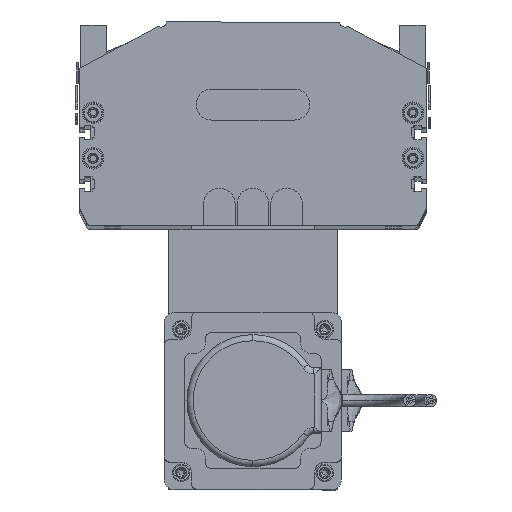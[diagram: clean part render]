
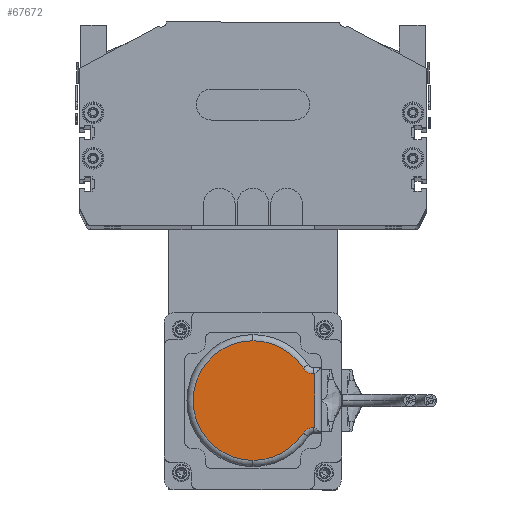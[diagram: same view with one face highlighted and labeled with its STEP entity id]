
A CAD part, top view. The second image highlights one B-rep face of the part: STEP entity #67672.
In plain terms, the highlighted planar face has unit normal (0, 0, 1).
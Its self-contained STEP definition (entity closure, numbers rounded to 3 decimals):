
#4352 = CARTESIAN_POINT ( 'NONE',  ( 62., 33., 26. ) ) ;
#6203 = CARTESIAN_POINT ( 'NONE',  ( 33., 33., 26. ) ) ;
#6204 = CIRCLE ( 'NONE', #6209, 29. ) ;
#6209 = AXIS2_PLACEMENT_3D ( 'NONE', #6203, #6236, #6233 ) ;
#6233 = DIRECTION ( 'NONE',  ( 1., 0., 0. ) ) ;
#6236 = DIRECTION ( 'NONE',  ( 0., 0., 1. ) ) ;
#6386 = AXIS2_PLACEMENT_3D ( 'NONE', #6400, #6399, #6410 ) ;
#6390 = FACE_OUTER_BOUND ( 'NONE', #67448, .T. ) ;
#6399 = DIRECTION ( 'NONE',  ( 0., 0., 1. ) ) ;
#6400 = CARTESIAN_POINT ( 'NONE',  ( 33., 33., 26. ) ) ;
#6410 = DIRECTION ( 'NONE',  ( 1., 0., 0. ) ) ;
#6416 = PLANE ( 'NONE',  #6386 ) ;
#6499 = DIRECTION ( 'NONE',  ( 0., -1., 0. ) ) ;
#6500 = VECTOR ( 'NONE', #6499, 1000. ) ;
#6505 = CARTESIAN_POINT ( 'NONE',  ( 20., 33., 26. ) ) ;
#6511 = LINE ( 'NONE', #6505, #6500 ) ;
#6689 = CARTESIAN_POINT ( 'NONE',  ( 20., 62.394, 26. ) ) ;
#6708 = CIRCLE ( 'NONE', #6769, 29. ) ;
#6718 = AXIS2_PLACEMENT_3D ( 'NONE', #6762, #6761, #6760 ) ;
#6719 = CARTESIAN_POINT ( 'NONE',  ( 46., 62.394, 26. ) ) ;
#6760 = DIRECTION ( 'NONE',  ( 1., 0., 0. ) ) ;
#6761 = DIRECTION ( 'NONE',  ( 0., 0., 1. ) ) ;
#6762 = CARTESIAN_POINT ( 'NONE',  ( 14., 62.394, 26. ) ) ;
#6766 = DIRECTION ( 'NONE',  ( 1., 0., 0. ) ) ;
#6767 = DIRECTION ( 'NONE',  ( 0., 0., 1. ) ) ;
#6768 = CARTESIAN_POINT ( 'NONE',  ( 33., 33., 26. ) ) ;
#6769 = AXIS2_PLACEMENT_3D ( 'NONE', #6768, #6767, #6766 ) ;
#6771 = CIRCLE ( 'NONE', #6718, 6. ) ;
#6865 = LINE ( 'NONE', #6921, #6920 ) ;
#6867 = CIRCLE ( 'NONE', #6917, 6. ) ;
#6903 = DIRECTION ( 'NONE',  ( -1., 0., 0. ) ) ;
#6905 = CARTESIAN_POINT ( 'NONE',  ( 48.743, 57.355, 26. ) ) ;
#6906 = DIRECTION ( 'NONE',  ( 1., 0., 0. ) ) ;
#6907 = DIRECTION ( 'NONE',  ( 0., 0., 1. ) ) ;
#6909 = CARTESIAN_POINT ( 'NONE',  ( 20., 63., 26. ) ) ;
#6910 = VECTOR ( 'NONE', #6903, 1000. ) ;
#6911 = CARTESIAN_POINT ( 'NONE',  ( 17.5, 63., 26. ) ) ;
#6912 = LINE ( 'NONE', #6911, #6910 ) ;
#6916 = CARTESIAN_POINT ( 'NONE',  ( 52., 62.394, 26. ) ) ;
#6917 = AXIS2_PLACEMENT_3D ( 'NONE', #6916, #6907, #6906 ) ;
#6918 = CARTESIAN_POINT ( 'NONE',  ( 46., 63., 26. ) ) ;
#6919 = DIRECTION ( 'NONE',  ( 0., 1., 0. ) ) ;
#6920 = VECTOR ( 'NONE', #6919, 1000. ) ;
#6921 = CARTESIAN_POINT ( 'NONE',  ( 46., 33., 26. ) ) ;
#37857 = CIRCLE ( 'NONE', #37909, 29. ) ;
#37860 = CARTESIAN_POINT ( 'NONE',  ( 4., 33., 26. ) ) ;
#37907 = DIRECTION ( 'NONE',  ( 1., 0., 0. ) ) ;
#37908 = DIRECTION ( 'NONE',  ( 0., 0., 1. ) ) ;
#37909 = AXIS2_PLACEMENT_3D ( 'NONE', #37924, #37908, #37907 ) ;
#37924 = CARTESIAN_POINT ( 'NONE',  ( 33., 33., 26. ) ) ;
#38059 = CARTESIAN_POINT ( 'NONE',  ( 17.257, 57.355, 26. ) ) ;
#42561 = VERTEX_POINT ( 'NONE', #4352 ) ;
#65875 = VERTEX_POINT ( 'NONE', #37860 ) ;
#65878 = EDGE_CURVE ( 'NONE', #65953, #65875, #37857, .T. ) ;
#65953 = VERTEX_POINT ( 'NONE', #38059 ) ;
#67448 = EDGE_LOOP ( 'NONE', ( #67923, #67848, #67928, #67930, #67925, #67933, #67926, #67929 ) ) ;
#67456 = EDGE_CURVE ( 'NONE', #65875, #42561, #6204, .T. ) ;
#67672 = ADVANCED_FACE ( 'NONE', ( #6390 ), #6416, .T. ) ;
#67691 = EDGE_CURVE ( 'NONE', #67924, #67851, #6511, .T. ) ;
#67848 = ORIENTED_EDGE ( 'NONE', *, *, #65878, .T. ) ;
#67849 = EDGE_CURVE ( 'NONE', #42561, #67927, #6708, .T. ) ;
#67850 = VERTEX_POINT ( 'NONE', #6719 ) ;
#67851 = VERTEX_POINT ( 'NONE', #6689 ) ;
#67852 = EDGE_CURVE ( 'NONE', #65953, #67851, #6771, .T. ) ;
#67919 = EDGE_CURVE ( 'NONE', #67850, #67921, #6865, .T. ) ;
#67921 = VERTEX_POINT ( 'NONE', #6918 ) ;
#67922 = EDGE_CURVE ( 'NONE', #67850, #67927, #6867, .T. ) ;
#67923 = ORIENTED_EDGE ( 'NONE', *, *, #67852, .F. ) ;
#67924 = VERTEX_POINT ( 'NONE', #6909 ) ;
#67925 = ORIENTED_EDGE ( 'NONE', *, *, #67922, .F. ) ;
#67926 = ORIENTED_EDGE ( 'NONE', *, *, #67932, .T. ) ;
#67927 = VERTEX_POINT ( 'NONE', #6905 ) ;
#67928 = ORIENTED_EDGE ( 'NONE', *, *, #67456, .T. ) ;
#67929 = ORIENTED_EDGE ( 'NONE', *, *, #67691, .T. ) ;
#67930 = ORIENTED_EDGE ( 'NONE', *, *, #67849, .T. ) ;
#67932 = EDGE_CURVE ( 'NONE', #67921, #67924, #6912, .T. ) ;
#67933 = ORIENTED_EDGE ( 'NONE', *, *, #67919, .T. ) ;
